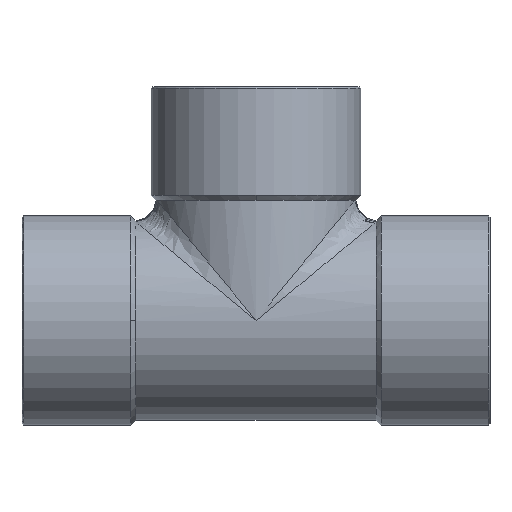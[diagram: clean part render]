
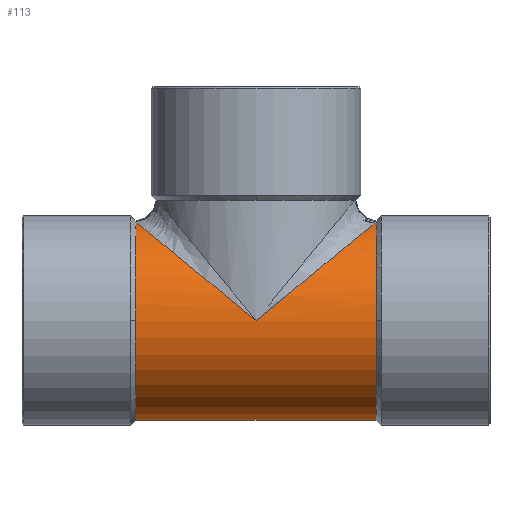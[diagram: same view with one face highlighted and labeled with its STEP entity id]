
A CAD part, top view. The second image highlights one B-rep face of the part: STEP entity #113.
In plain terms, the highlighted cylindrical face has radius 32.05 mm (diameter 64.1 mm), a partial arc.
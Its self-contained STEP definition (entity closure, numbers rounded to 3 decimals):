
#44=CARTESIAN_POINT('',(0.0,0.,0.0));
#45=DIRECTION('',(1.0,0.,0.0));
#46=DIRECTION('',(0.0,1.0,0.0));
#47=AXIS2_PLACEMENT_3D('',#44,#45,#46);
#48=CYLINDRICAL_SURFACE('',#47,32.05);
#49=CARTESIAN_POINT('',(38.65,-32.05,0.));
#50=VERTEX_POINT('',#49);
#51=CARTESIAN_POINT('',(-38.65,-32.05,0.));
#52=VERTEX_POINT('',#51);
#53=CARTESIAN_POINT('',(38.65,-32.05,0.));
#54=DIRECTION('',(-1.0,0.0,0.0));
#55=VECTOR('',#54,77.3);
#56=LINE('',#53,#55);
#57=EDGE_CURVE('',#50,#52,#56,.T.);
#58=ORIENTED_EDGE('',*,*,#57,.F.);
#59=CARTESIAN_POINT('',(38.65,0.,32.05));
#60=VERTEX_POINT('',#59);
#61=CARTESIAN_POINT('',(38.65,0.,0.0));
#62=DIRECTION('',(-1.0,0.0,0.0));
#63=DIRECTION('',(0.0,1.0,0.0));
#64=AXIS2_PLACEMENT_3D('',#61,#62,#63);
#65=CIRCLE('',#64,32.05);
#66=EDGE_CURVE('',#50,#60,#65,.T.);
#67=ORIENTED_EDGE('',*,*,#66,.T.);
#68=CARTESIAN_POINT('',(38.65,31.722,4.576));
#69=VERTEX_POINT('',#68);
#70=CARTESIAN_POINT('',(38.65,0.,0.0));
#71=DIRECTION('',(-1.0,0.0,0.0));
#72=DIRECTION('',(0.0,1.0,0.0));
#73=AXIS2_PLACEMENT_3D('',#70,#71,#72);
#74=CIRCLE('',#73,32.05);
#75=EDGE_CURVE('',#60,#69,#74,.T.);
#76=ORIENTED_EDGE('',*,*,#75,.T.);
#77=CARTESIAN_POINT('',(0.,0.,32.05));
#78=VERTEX_POINT('',#77);
#79=CARTESIAN_POINT('',(0.0,0.0,0.0));
#80=DIRECTION('',(-0.634,0.773,0.));
#81=DIRECTION('',(0.773,0.634,0.0));
#82=AXIS2_PLACEMENT_3D('',#79,#80,#81);
#83=ELLIPSE('',#82,50.518,32.05);
#84=EDGE_CURVE('',#78,#69,#83,.T.);
#85=ORIENTED_EDGE('',*,*,#84,.F.);
#86=CARTESIAN_POINT('',(-38.65,31.722,4.576));
#87=VERTEX_POINT('',#86);
#88=CARTESIAN_POINT('',(0.0,0.,0.0));
#89=DIRECTION('',(0.634,0.773,0.));
#90=DIRECTION('',(-0.773,0.634,0.0));
#91=AXIS2_PLACEMENT_3D('',#88,#89,#90);
#92=ELLIPSE('',#91,50.518,32.05);
#93=EDGE_CURVE('',#87,#78,#92,.T.);
#94=ORIENTED_EDGE('',*,*,#93,.F.);
#95=CARTESIAN_POINT('',(-38.65,0.,32.05));
#96=VERTEX_POINT('',#95);
#97=CARTESIAN_POINT('',(-38.65,0.,0.0));
#98=DIRECTION('',(1.0,0.0,0.0));
#99=DIRECTION('',(0.0,1.0,0.0));
#100=AXIS2_PLACEMENT_3D('',#97,#98,#99);
#101=CIRCLE('',#100,32.05);
#102=EDGE_CURVE('',#87,#96,#101,.T.);
#103=ORIENTED_EDGE('',*,*,#102,.T.);
#104=CARTESIAN_POINT('',(-38.65,0.,0.0));
#105=DIRECTION('',(1.0,0.0,0.0));
#106=DIRECTION('',(0.0,1.0,0.0));
#107=AXIS2_PLACEMENT_3D('',#104,#105,#106);
#108=CIRCLE('',#107,32.05);
#109=EDGE_CURVE('',#96,#52,#108,.T.);
#110=ORIENTED_EDGE('',*,*,#109,.T.);
#111=EDGE_LOOP('',(#58,#67,#76,#85,#94,#103,#110));
#112=FACE_OUTER_BOUND('',#111,.T.);
#113=ADVANCED_FACE('',(#112),#48,.T.);
